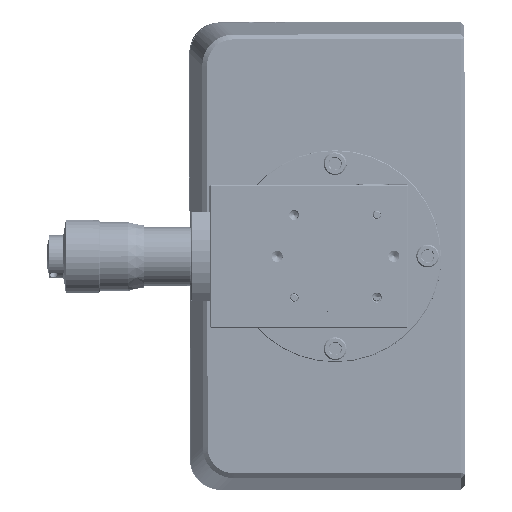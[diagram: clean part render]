
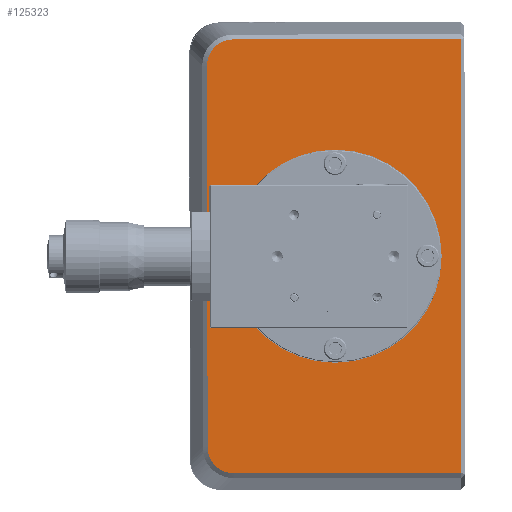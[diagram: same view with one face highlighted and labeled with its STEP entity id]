
A CAD part, left-side view. The second image highlights one B-rep face of the part: STEP entity #125323.
In plain terms, the highlighted planar face has unit normal (-1, -0.002, -0.001).
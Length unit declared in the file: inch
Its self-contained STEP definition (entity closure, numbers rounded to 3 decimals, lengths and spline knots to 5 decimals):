
#2704 = CARTESIAN_POINT ( 'NONE',  ( -0.09498, -6.36181, -1.31813 ) ) ;
#7952 = VERTEX_POINT ( 'NONE', #269433 ) ;
#15052 = PLANE ( 'NONE',  #340775 ) ;
#17441 = CARTESIAN_POINT ( 'NONE',  ( -0.09257, -7.32915, -3.05695 ) ) ;
#26824 = CARTESIAN_POINT ( 'NONE',  ( -0.09579, -6.35979, 0.24057 ) ) ;
#30291 = CARTESIAN_POINT ( 'NONE',  ( -0.09338, -7.38689, -1.3168 ) ) ;
#30971 = CARTESIAN_POINT ( 'NONE',  ( -0.09338, -7.38689, -1.3168 ) ) ;
#31868 = CIRCLE ( 'NONE', #413714, 0.855 ) ;
#49006 = VERTEX_POINT ( 'NONE', #345193 ) ;
#51670 = CARTESIAN_POINT ( 'NONE',  ( -0.0918, -8.39689, -1.31549 ) ) ;
#52617 = FACE_BOUND ( 'NONE', #390471, .T. ) ;
#55970 = B_SPLINE_CURVE_WITH_KNOTS ( 'NONE', 3,
 ( #86241, #315183, #137006, #273120, #280067, #451272, #237845, #130053, #26824, #162919 ),
 .UNSPECIFIED., .F., .F.,
 ( 4, 2, 2, 2, 4 ),
 ( 0., 0.25, 0.5, 0.75, 1. ),
 .UNSPECIFIED. ) ;
#57225 = DIRECTION ( 'NONE',  ( 1., 0.002, 0.001 ) ) ;
#58455 = EDGE_LOOP ( 'NONE', ( #379997, #306181, #445911, #354658, #86369, #226224 ) ) ;
#70126 = DIRECTION ( 'NONE',  ( -1., -0.002, -0.001 ) ) ;
#86241 = CARTESIAN_POINT ( 'NONE',  ( -0.09556, -6.56848, 0.42222 ) ) ;
#86369 = ORIENTED_EDGE ( 'NONE', *, *, #415520, .T. ) ;
#92026 = EDGE_CURVE ( 'NONE', #173176, #7952, #240020, .T. ) ;
#107372 = CARTESIAN_POINT ( 'NONE',  ( -0.09393, -6.4675, -3.03184 ) ) ;
#109655 = CARTESIAN_POINT ( 'NONE',  ( -0.09415, -6.36931, -2.90427 ) ) ;
#114276 = CARTESIAN_POINT ( 'NONE',  ( -0.09419, -6.3638, -2.84929 ) ) ;
#121138 = EDGE_CURVE ( 'NONE', #447553, #49006, #231197, .T. ) ;
#124376 = LINE ( 'NONE', #51670, #138623 ) ;
#125323 = ADVANCED_FACE ( 'NONE', ( #160393, #52617 ), #15052, .F. ) ;
#130053 = CARTESIAN_POINT ( 'NONE',  ( -0.0958, -6.36519, 0.26802 ) ) ;
#137006 = CARTESIAN_POINT ( 'NONE',  ( -0.09564, -6.5135, 0.41671 ) ) ;
#138623 = VECTOR ( 'NONE', #225213, 39.37008 ) ;
#160393 = FACE_OUTER_BOUND ( 'NONE', #58455, .T. ) ;
#160442 = DIRECTION ( 'NONE',  ( 0.002, -1., 0.001 ) ) ;
#162919 = CARTESIAN_POINT ( 'NONE',  ( -0.09578, -6.35983, 0.21303 ) ) ;
#168714 = CARTESIAN_POINT ( 'NONE',  ( -0.09293, -7.388, -2.1718 ) ) ;
#170299 = CARTESIAN_POINT ( 'NONE',  ( -0.09419, -6.3638, -2.84929 ) ) ;
#173176 = VERTEX_POINT ( 'NONE', #197043 ) ;
#177566 = CARTESIAN_POINT ( 'NONE',  ( -0.09397, -6.44424, -3.01638 ) ) ;
#179908 = CARTESIAN_POINT ( 'NONE',  ( -0.09417, -6.36383, -2.87677 ) ) ;
#179954 = VERTEX_POINT ( 'NONE', #170299 ) ;
#195432 = EDGE_CURVE ( 'NONE', #385069, #227831, #31868, .T. ) ;
#197043 = CARTESIAN_POINT ( 'NONE',  ( -0.09375, -6.57299, -3.05793 ) ) ;
#204298 = EDGE_CURVE ( 'NONE', #7952, #447553, #124376, .T. ) ;
#225213 = DIRECTION ( 'NONE',  ( -0.001, 0.001, 1. ) ) ;
#226224 = ORIENTED_EDGE ( 'NONE', *, *, #234647, .T. ) ;
#227831 = VERTEX_POINT ( 'NONE', #168714 ) ;
#231197 = LINE ( 'NONE', #268739, #403524 ) ;
#234571 = AXIS2_PLACEMENT_3D ( 'NONE', #30291, #70126, #358535 ) ;
#234647 = EDGE_CURVE ( 'NONE', #279840, #179954, #356927, .T. ) ;
#237845 = CARTESIAN_POINT ( 'NONE',  ( -0.09579, -6.38593, 0.31852 ) ) ;
#240020 = LINE ( 'NONE', #17441, #309507 ) ;
#254937 = CARTESIAN_POINT ( 'NONE',  ( -0.09384, -6.51799, -3.05258 ) ) ;
#257051 = CIRCLE ( 'NONE', #234571, 0.855 ) ;
#268739 = CARTESIAN_POINT ( 'NONE',  ( -0.09438, -7.32463, 0.4232 ) ) ;
#269433 = CARTESIAN_POINT ( 'NONE',  ( -0.09089, -8.39914, -3.05557 ) ) ;
#273120 = CARTESIAN_POINT ( 'NONE',  ( -0.09571, -6.46305, 0.39585 ) ) ;
#279556 = CARTESIAN_POINT ( 'NONE',  ( -0.09271, -8.39463, 0.42459 ) ) ;
#279840 = VERTEX_POINT ( 'NONE', #409738 ) ;
#280067 = CARTESIAN_POINT ( 'NONE',  ( -0.09574, -6.43984, 0.38033 ) ) ;
#306181 = ORIENTED_EDGE ( 'NONE', *, *, #92026, .T. ) ;
#309507 = VECTOR ( 'NONE', #160442, 39.37008 ) ;
#314687 = DIRECTION ( 'NONE',  ( -1., -0.002, -0.001 ) ) ;
#315183 = CARTESIAN_POINT ( 'NONE',  ( -0.0956, -6.54099, 0.42218 ) ) ;
#322971 = CARTESIAN_POINT ( 'NONE',  ( -0.09405, -6.40569, -2.97793 ) ) ;
#325299 = CARTESIAN_POINT ( 'NONE',  ( -0.09409, -6.39017, -2.95471 ) ) ;
#327621 = CARTESIAN_POINT ( 'NONE',  ( -0.09375, -6.57299, -3.05793 ) ) ;
#340775 = AXIS2_PLACEMENT_3D ( 'NONE', #444156, #57225, #408983 ) ;
#343267 = CARTESIAN_POINT ( 'NONE',  ( -0.09382, -7.38578, -0.4618 ) ) ;
#343730 = DIRECTION ( 'NONE',  ( -0.002, 1., -0.001 ) ) ;
#345193 = CARTESIAN_POINT ( 'NONE',  ( -0.09556, -6.56848, 0.42222 ) ) ;
#349920 = B_SPLINE_CURVE_WITH_KNOTS ( 'NONE', 3,
 ( #114276, #179908, #109655, #325299, #322971, #177566, #107372, #254937, #400254, #327621 ),
 .UNSPECIFIED., .F., .F.,
 ( 4, 2, 2, 2, 4 ),
 ( 0., 0.25, 0.5, 0.75, 1. ),
 .UNSPECIFIED. ) ;
#354658 = ORIENTED_EDGE ( 'NONE', *, *, #121138, .T. ) ;
#356927 = LINE ( 'NONE', #2704, #401397 ) ;
#358535 = DIRECTION ( 'NONE',  ( -0.001, 0.001, 1. ) ) ;
#359784 = ORIENTED_EDGE ( 'NONE', *, *, #195432, .F. ) ;
#361486 = DIRECTION ( 'NONE',  ( -0.001, 0.001, 1. ) ) ;
#368024 = EDGE_CURVE ( 'NONE', #227831, #385069, #257051, .T. ) ;
#379997 = ORIENTED_EDGE ( 'NONE', *, *, #402753, .T. ) ;
#385069 = VERTEX_POINT ( 'NONE', #343267 ) ;
#390471 = EDGE_LOOP ( 'NONE', ( #359784, #393539 ) ) ;
#393539 = ORIENTED_EDGE ( 'NONE', *, *, #368024, .F. ) ;
#400254 = CARTESIAN_POINT ( 'NONE',  ( -0.09379, -6.54545, -3.05797 ) ) ;
#401397 = VECTOR ( 'NONE', #462396, 39.37008 ) ;
#402753 = EDGE_CURVE ( 'NONE', #179954, #173176, #349920, .T. ) ;
#403524 = VECTOR ( 'NONE', #343730, 39.37008 ) ;
#408983 = DIRECTION ( 'NONE',  ( 0.001, -0.001, -1. ) ) ;
#409738 = CARTESIAN_POINT ( 'NONE',  ( -0.09578, -6.35983, 0.21303 ) ) ;
#413714 = AXIS2_PLACEMENT_3D ( 'NONE', #30971, #314687, #361486 ) ;
#415520 = EDGE_CURVE ( 'NONE', #49006, #279840, #55970, .T. ) ;
#444156 = CARTESIAN_POINT ( 'NONE',  ( -0.09347, -7.32689, -1.31688 ) ) ;
#445911 = ORIENTED_EDGE ( 'NONE', *, *, #204298, .T. ) ;
#447553 = VERTEX_POINT ( 'NONE', #279556 ) ;
#451272 = CARTESIAN_POINT ( 'NONE',  ( -0.09578, -6.40138, 0.34178 ) ) ;
#462396 = DIRECTION ( 'NONE',  ( 0.001, -0.001, -1. ) ) ;
